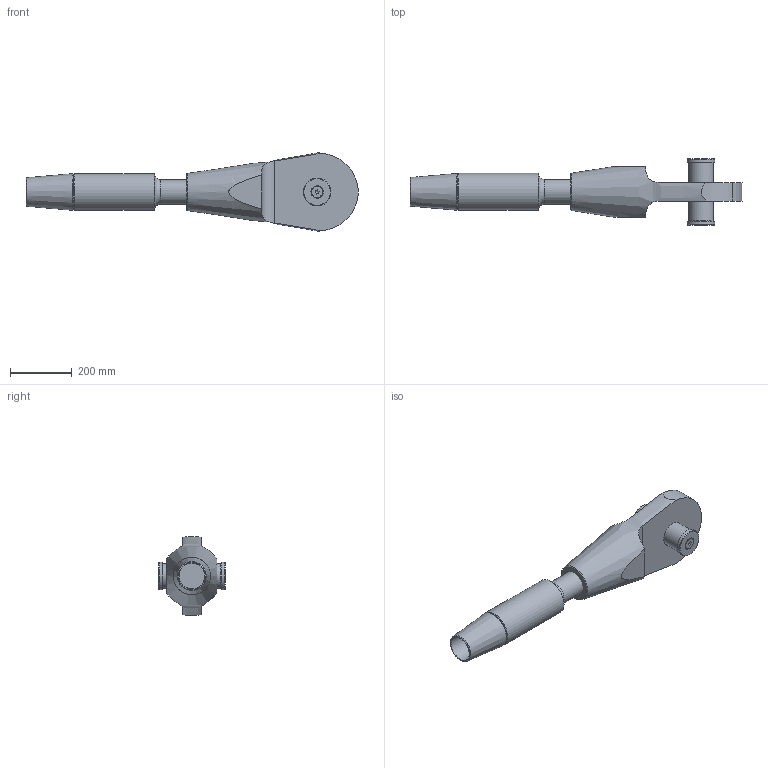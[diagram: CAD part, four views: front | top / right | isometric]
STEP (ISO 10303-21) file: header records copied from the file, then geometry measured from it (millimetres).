
FILE_DESCRIPTION(/* description */ (''),/* implementation_level */ '2;1');
FILE_NAME(/* name */ 'C:\Vault_WS\Designs\SB\01-PX\Verzinkt\ZSS\520 - Zusambau-OES-ADA\520-080-OES-ADA.stp',/* time_stamp */ '2020-10-07T15:42:44+02:00',/* author */ ('schwarz'),/* organization */ (''),/* preprocessor_version */ 'ST-DEVELOPER v18.1',/* originating_system */ 'Autodesk Inventor 2020',/* authorisation */ '');
FILE_SCHEMA (('AUTOMOTIVE_DESIGN { 1 0 10303 214 3 1 1 }'));
Length unit declared in the file: millimetre
Products named in the file (1): 520-080-OES-ADA-Kunde
Bounding box: 1076.09 x 216 x 253.68 mm (x, y, z)
Volume: 14708357.3 mm3; surface area: 693906.1 mm2
Topology: 6 solids, 6 shells, 56 faces, 135 edges, 93 vertices
Faces by surface type: plane 25, cylinder 16, cone 13, torus 2
Full cylindrical faces by diameter (mm): 17.294 x1, 20 x1, 22 x1, 36.05 x1, 80 x2, 83 x2, 90 x2, 120 x1
Entity records: 1902 total; most frequent: CARTESIAN_POINT 439, DIRECTION 292, ORIENTED_EDGE 266, EDGE_CURVE 133, AXIS2_PLACEMENT_3D 124, VERTEX_POINT 93, CIRCLE 67, EDGE_LOOP 64
